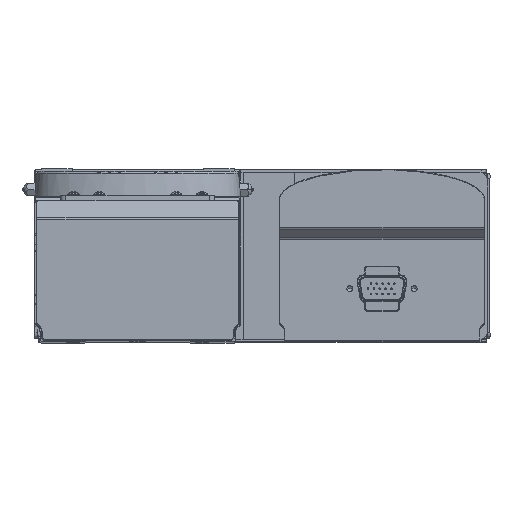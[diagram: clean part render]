
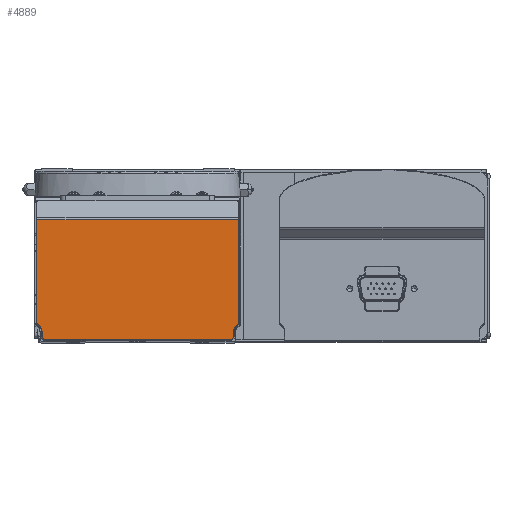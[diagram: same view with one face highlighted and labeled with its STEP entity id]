
A CAD part, top view. The second image highlights one B-rep face of the part: STEP entity #4889.
In plain terms, the highlighted planar face has unit normal (0, 0, 1).
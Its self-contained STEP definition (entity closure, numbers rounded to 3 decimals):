
#549 = CARTESIAN_POINT ( 'NONE',  ( -37.5, -14.172, 1010. ) ) ;
#656 = EDGE_CURVE ( 'NONE', #4069, #25833, #42563, .T. ) ;
#1333 = CARTESIAN_POINT ( 'NONE',  ( -39.5, 25.586, 1010. ) ) ;
#1817 = CARTESIAN_POINT ( 'NONE',  ( -39.2, -14.172, 1010. ) ) ;
#1971 = CARTESIAN_POINT ( 'NONE',  ( -37.2, 9., 1010. ) ) ;
#2484 = CIRCLE ( 'NONE', #39676, 1.7 ) ;
#2960 = VERTEX_POINT ( 'NONE', #25631 ) ;
#3716 = CARTESIAN_POINT ( 'NONE',  ( 37.2, -20.376, 1010. ) ) ;
#4069 = VERTEX_POINT ( 'NONE', #22836 ) ;
#4429 = AXIS2_PLACEMENT_3D ( 'NONE', #28457, #44888, #7947 ) ;
#4889 = ADVANCED_FACE ( 'NONE', ( #48940 ), #12066, .F. ) ;
#4986 = VERTEX_POINT ( 'NONE', #33822 ) ;
#5091 = CARTESIAN_POINT ( 'NONE',  ( 0., -21.2, 1010. ) ) ;
#5552 = CARTESIAN_POINT ( 'NONE',  ( -31.538, -22.538, 1010. ) ) ;
#5761 = DIRECTION ( 'NONE',  ( -1., 0., 0. ) ) ;
#6566 = LINE ( 'NONE', #23125, #12733 ) ;
#7262 = VERTEX_POINT ( 'NONE', #28595 ) ;
#7947 = DIRECTION ( 'NONE',  ( -1., 0., 0. ) ) ;
#8169 = DIRECTION ( 'NONE',  ( 0.707, 0.707, 0. ) ) ;
#8668 = AXIS2_PLACEMENT_3D ( 'NONE', #29262, #45701, #8786 ) ;
#8711 = CIRCLE ( 'NONE', #8668, 2.3 ) ;
#8786 = DIRECTION ( 'NONE',  ( -1., 0., 0. ) ) ;
#8822 = EDGE_CURVE ( 'NONE', #34236, #31286, #32565, .T. ) ;
#9473 = EDGE_CURVE ( 'NONE', #31286, #50689, #32370, .T. ) ;
#9826 = ORIENTED_EDGE ( 'NONE', *, *, #9473, .T. ) ;
#10207 = EDGE_CURVE ( 'NONE', #25833, #7262, #8711, .T. ) ;
#10329 = CIRCLE ( 'NONE', #40399, 1.7 ) ;
#11164 = ORIENTED_EDGE ( 'NONE', *, *, #8822, .T. ) ;
#11943 = DIRECTION ( 'NONE',  ( 0., 1., 0. ) ) ;
#12066 = PLANE ( 'NONE',  #4429 ) ;
#12146 = DIRECTION ( 'NONE',  ( 0.707, 0.707, 0. ) ) ;
#12733 = VECTOR ( 'NONE', #39479, 1000. ) ;
#13033 = DIRECTION ( 'NONE',  ( 0., 1., 0. ) ) ;
#13328 = ORIENTED_EDGE ( 'NONE', *, *, #19301, .T. ) ;
#14177 = CARTESIAN_POINT ( 'NONE',  ( 37.2, -17.828, 1010. ) ) ;
#16947 = EDGE_CURVE ( 'NONE', #4986, #41973, #6566, .T. ) ;
#17345 = DIRECTION ( 'NONE',  ( 0., 0., 1. ) ) ;
#17452 = CARTESIAN_POINT ( 'NONE',  ( -36.288, -21.288, 1010. ) ) ;
#18094 = DIRECTION ( 'NONE',  ( -1., 0., 0. ) ) ;
#18717 = DIRECTION ( 'NONE',  ( 0., -1., 0. ) ) ;
#18802 = VERTEX_POINT ( 'NONE', #43206 ) ;
#19301 = EDGE_CURVE ( 'NONE', #28174, #22138, #10329, .T. ) ;
#19881 = ORIENTED_EDGE ( 'NONE', *, *, #28485, .T. ) ;
#20445 = CARTESIAN_POINT ( 'NONE',  ( 39.5, -17.828, 1010. ) ) ;
#20476 = AXIS2_PLACEMENT_3D ( 'NONE', #20445, #36796, #53323 ) ;
#20603 = ORIENTED_EDGE ( 'NONE', *, *, #25538, .T. ) ;
#21338 = ORIENTED_EDGE ( 'NONE', *, *, #656, .T. ) ;
#21449 = VECTOR ( 'NONE', #11943, 1000. ) ;
#21706 = DIRECTION ( 'NONE',  ( 1., 0., 0. ) ) ;
#22138 = VERTEX_POINT ( 'NONE', #46150 ) ;
#22150 = DIRECTION ( 'NONE',  ( 0.707, -0.707, 0. ) ) ;
#22836 = CARTESIAN_POINT ( 'NONE',  ( -38.702, -15.374, 1010. ) ) ;
#22934 = VERTEX_POINT ( 'NONE', #29032 ) ;
#22979 = ORIENTED_EDGE ( 'NONE', *, *, #35026, .T. ) ;
#23125 = CARTESIAN_POINT ( 'NONE',  ( -39.2, 9., 1010. ) ) ;
#23685 = CARTESIAN_POINT ( 'NONE',  ( 36.376, -21.2, 1010. ) ) ;
#23778 = VECTOR ( 'NONE', #33823, 1000. ) ;
#25538 = EDGE_CURVE ( 'NONE', #2960, #34236, #42110, .T. ) ;
#25631 = CARTESIAN_POINT ( 'NONE',  ( -36.376, -21.2, 1010. ) ) ;
#25833 = VERTEX_POINT ( 'NONE', #40437 ) ;
#26140 = LINE ( 'NONE', #1333, #30045 ) ;
#26341 = CARTESIAN_POINT ( 'NONE',  ( 37.5, -14.172, 1010. ) ) ;
#28174 = VERTEX_POINT ( 'NONE', #30343 ) ;
#28457 = CARTESIAN_POINT ( 'NONE',  ( 0., 9., 1010. ) ) ;
#28485 = EDGE_CURVE ( 'NONE', #22934, #28174, #28674, .T. ) ;
#28595 = CARTESIAN_POINT ( 'NONE',  ( -37.2, -17.828, 1010. ) ) ;
#28674 = LINE ( 'NONE', #45106, #36095 ) ;
#29032 = CARTESIAN_POINT ( 'NONE',  ( 37.874, -16.202, 1010. ) ) ;
#29262 = CARTESIAN_POINT ( 'NONE',  ( -39.5, -17.828, 1010. ) ) ;
#29949 = EDGE_LOOP ( 'NONE', ( #13328, #40738, #47787, #46481, #48462, #21338, #44729, #22979, #50456, #20603, #11164, #9826, #49710, #19881 ) ) ;
#30045 = VECTOR ( 'NONE', #18094, 1000. ) ;
#30343 = CARTESIAN_POINT ( 'NONE',  ( 38.702, -15.374, 1010. ) ) ;
#31286 = VERTEX_POINT ( 'NONE', #3716 ) ;
#31776 = EDGE_CURVE ( 'NONE', #41973, #4069, #2484, .T. ) ;
#32370 = LINE ( 'NONE', #48819, #21449 ) ;
#32565 = LINE ( 'NONE', #49019, #36077 ) ;
#33437 = LINE ( 'NONE', #49898, #35839 ) ;
#33720 = DIRECTION ( 'NONE',  ( -1., 0., 0. ) ) ;
#33822 = CARTESIAN_POINT ( 'NONE',  ( -39.2, 25.586, 1010. ) ) ;
#33823 = DIRECTION ( 'NONE',  ( 0.707, -0.707, 0. ) ) ;
#34167 = VECTOR ( 'NONE', #21706, 1000. ) ;
#34236 = VERTEX_POINT ( 'NONE', #23685 ) ;
#35026 = EDGE_CURVE ( 'NONE', #7262, #39048, #39102, .T. ) ;
#35839 = VECTOR ( 'NONE', #13033, 1000. ) ;
#36077 = VECTOR ( 'NONE', #12146, 1000. ) ;
#36095 = VECTOR ( 'NONE', #8169, 1000. ) ;
#36796 = DIRECTION ( 'NONE',  ( 0., 0., -1. ) ) ;
#36869 = EDGE_CURVE ( 'NONE', #39048, #2960, #41903, .T. ) ;
#38348 = EDGE_CURVE ( 'NONE', #22138, #18802, #33437, .T. ) ;
#38598 = CARTESIAN_POINT ( 'NONE',  ( -37.2, -20.376, 1010. ) ) ;
#38639 = EDGE_CURVE ( 'NONE', #50689, #22934, #43632, .T. ) ;
#39048 = VERTEX_POINT ( 'NONE', #38598 ) ;
#39102 = LINE ( 'NONE', #1971, #42555 ) ;
#39479 = DIRECTION ( 'NONE',  ( 0., -1., 0. ) ) ;
#39676 = AXIS2_PLACEMENT_3D ( 'NONE', #549, #17345, #33720 ) ;
#40399 = AXIS2_PLACEMENT_3D ( 'NONE', #26341, #42758, #5761 ) ;
#40437 = CARTESIAN_POINT ( 'NONE',  ( -37.874, -16.202, 1010. ) ) ;
#40738 = ORIENTED_EDGE ( 'NONE', *, *, #38348, .T. ) ;
#40899 = VECTOR ( 'NONE', #22150, 1000. ) ;
#41903 = LINE ( 'NONE', #17452, #23778 ) ;
#41973 = VERTEX_POINT ( 'NONE', #1817 ) ;
#42110 = LINE ( 'NONE', #5091, #34167 ) ;
#42555 = VECTOR ( 'NONE', #18717, 1000. ) ;
#42563 = LINE ( 'NONE', #5552, #40899 ) ;
#42758 = DIRECTION ( 'NONE',  ( 0., 0., 1. ) ) ;
#43206 = CARTESIAN_POINT ( 'NONE',  ( 39.2, 25.586, 1010. ) ) ;
#43632 = CIRCLE ( 'NONE', #20476, 2.3 ) ;
#44729 = ORIENTED_EDGE ( 'NONE', *, *, #10207, .T. ) ;
#44888 = DIRECTION ( 'NONE',  ( 0., 0., -1. ) ) ;
#45106 = CARTESIAN_POINT ( 'NONE',  ( 31.538, -22.538, 1010. ) ) ;
#45701 = DIRECTION ( 'NONE',  ( 0., 0., -1. ) ) ;
#46150 = CARTESIAN_POINT ( 'NONE',  ( 39.2, -14.172, 1010. ) ) ;
#46481 = ORIENTED_EDGE ( 'NONE', *, *, #16947, .T. ) ;
#47787 = ORIENTED_EDGE ( 'NONE', *, *, #52542, .T. ) ;
#48462 = ORIENTED_EDGE ( 'NONE', *, *, #31776, .T. ) ;
#48819 = CARTESIAN_POINT ( 'NONE',  ( 37.2, 9., 1010. ) ) ;
#48940 = FACE_OUTER_BOUND ( 'NONE', #29949, .T. ) ;
#49019 = CARTESIAN_POINT ( 'NONE',  ( 37.288, -20.288, 1010. ) ) ;
#49710 = ORIENTED_EDGE ( 'NONE', *, *, #38639, .T. ) ;
#49898 = CARTESIAN_POINT ( 'NONE',  ( 39.2, 9., 1010. ) ) ;
#50456 = ORIENTED_EDGE ( 'NONE', *, *, #36869, .T. ) ;
#50689 = VERTEX_POINT ( 'NONE', #14177 ) ;
#52542 = EDGE_CURVE ( 'NONE', #18802, #4986, #26140, .T. ) ;
#53323 = DIRECTION ( 'NONE',  ( -1., 0., 0. ) ) ;
